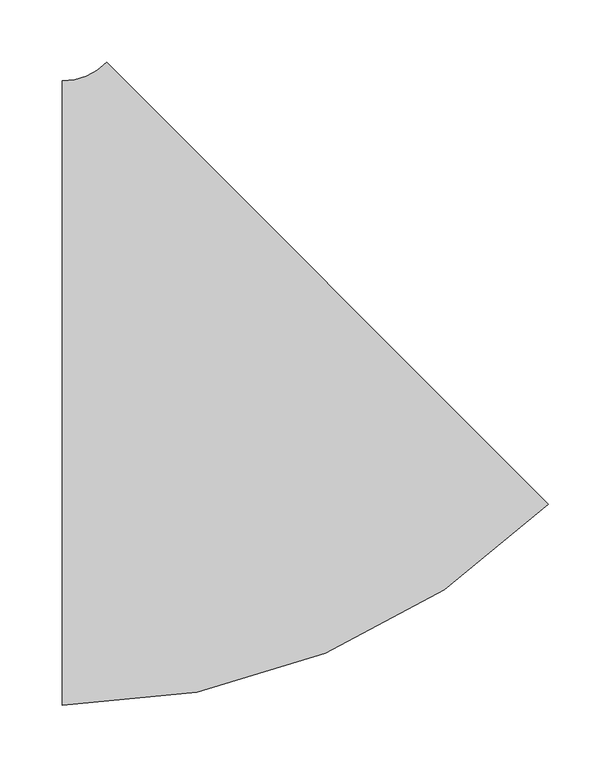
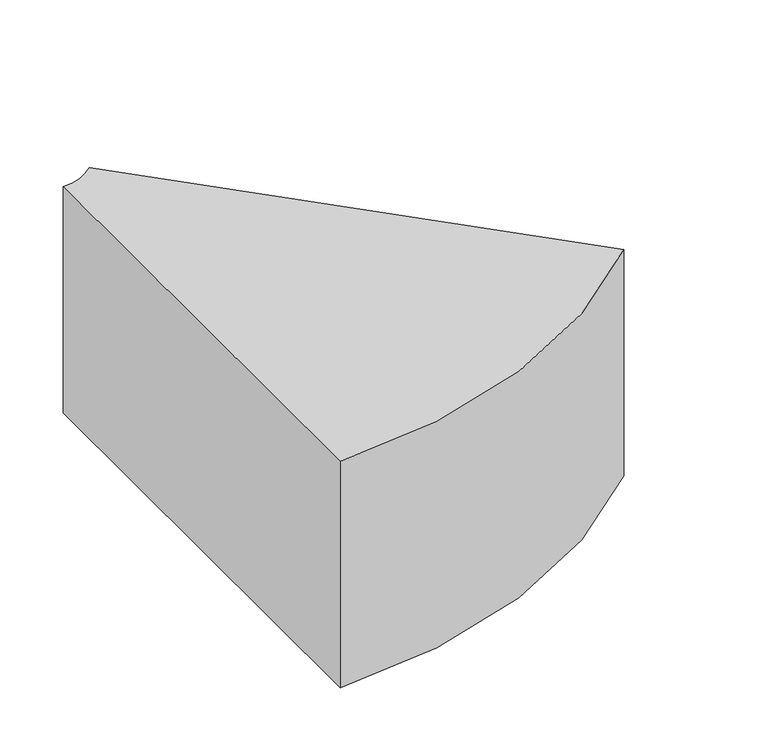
"""IFC4 building model written with IfcOpenShell, lengths in millimetres: duct fitting geometry, ADSK_ОтводВоздуховодов_Прямоугольный1 : Стандарт 2."""

from ifc_helpers import new_model, si_unit, point, frame, frame_2d, origin, place, context, project, spatial, polyline, circle_curve, trimmed, segment, composite_curve, outline, extrude, source, transform, mapped, element, save


def duct_fitting_80128afc(model_context):
    return source(origin(), model_context, "Body", "SweptSolid", [
        extrude(outline(composite_curve([segment(trimmed(circle_curve(frame_2d((-124.2640687, 300.0)), 550.0), [point((264.6446609, -88.9087297))], [point((-124.2640687, -250.0))], False, "CARTESIAN"), True, "CONTINUOUS"), segment(polyline([(-124.2640687, -250.0), (-124.2640687, 250.0)]), True, "CONTINUOUS"), segment(trimmed(circle_curve(frame_2d((-124.2640687, 300.0)), 50.0), [point((-124.2640687, 250.0))], [point((-88.9087297, 264.6446609))], True, "CARTESIAN"), True, "CONTINUOUS"), segment(polyline([(-88.9087297, 264.6446609), (264.6446609, -88.9087297)]), True, "CONTINUOUS")], self_intersect=False)), frame((0.0, 0.0, -125.0), z_axis=(0.0, 0.0, 1.0), x_axis=(1.0, 0.0, 0.0)), (0.0, 0.0, 1.0), 250.0),
    ])


if __name__ == "__main__":
    model = new_model("IFC4")
    model_context = context("Model", 3, world=origin())
    ifc_project = project(units=[si_unit("LENGTHUNIT", "METRE", prefix="MILLI")], contexts=[model_context])
    site = spatial("IfcSite", under=ifc_project)
    building = spatial("IfcBuilding", under=site)
    placement = place(None, origin())
    duct_fitting_shape = duct_fitting_80128afc(model_context)
    element("IfcDuctFitting", 1, ObjectType="ADSK_ОтводВоздуховодов_Прямоугольный1 : Стандарт 2", at=placement, inside=building, context=model_context, shape_type="MappedRepresentation", body=[
        mapped(duct_fitting_shape, transform((0.0, 0.0, 0.0), x_axis=(1.0, 0.0, 0.0), y_axis=(0.0, 1.0, 0.0), z_axis=(0.0, 0.0, 1.0))),
    ])
    save(model, "model.ifc")
